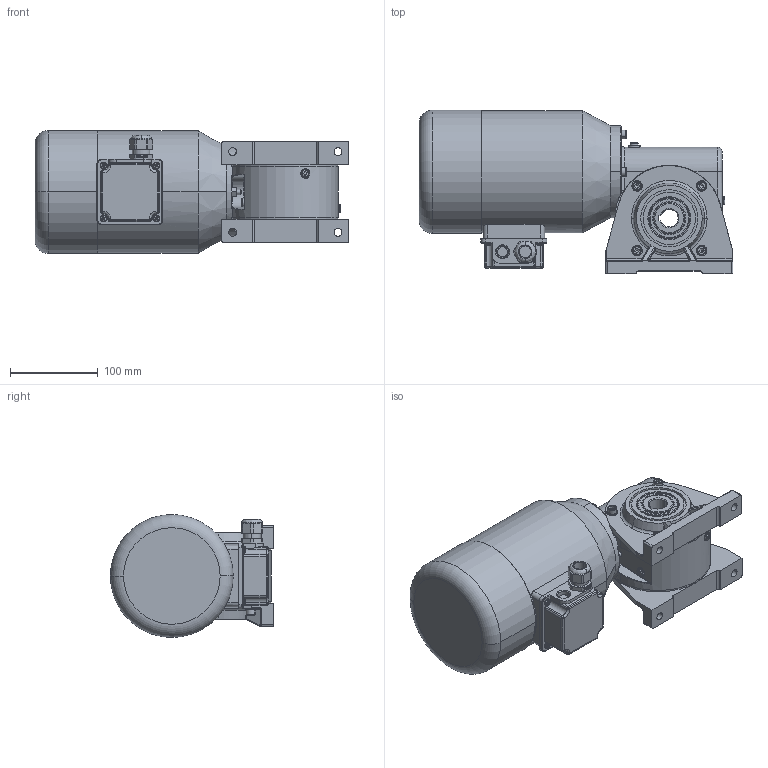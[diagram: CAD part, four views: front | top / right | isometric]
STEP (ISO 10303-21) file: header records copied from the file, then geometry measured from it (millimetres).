
FILE_DESCRIPTION (( 'STEP AP214' ), '1' );
FILE_NAME ('SN8BFH_250W_1400Upm_Drehstrom-Motor_B.STEP', '2021-07-23T09:06:00', ( '' ), ( '' ), 'SwSTEP 2.0', 'SolidWorks 2019', '' );
FILE_SCHEMA (( 'AUTOMOTIVE_DESIGN' ));
Length unit declared in the file: millimetre
Products named in the file (13): Kupferscheibe Ø6x12x1,5 DIN7603 A; SN8SHH_3D_Export; 08-M-165 I 250W_1400Upm; hex nut style 1 gradeab_din_Hexagon Nut ISO 4032 - M6 - D - C; 08FH-W-001_3D_Export; SN8BFH_250W_1400Upm_Drehstrom-Motor_B; NBR_WDR_35x47x7; slotted pan head screw_din_DIN EN ISO 1580 - M5 x 6 - 6C; socket head cap screw_din_DIN 912 M6 x 20 --- 20C; socket set screw flat point_din_DIN 913 - M6 x 25-C; U-Seal Ring Ø5; 08SHH-D-001_3D_Export; 08B-G-003_3D_Export
Assembly tree (37 placements, depth 3):
  SN8BFH_250W_1400Upm_Drehstrom-Motor_B
    SN8SHH_3D_Export
      08B-G-003_3D_Export
      08FH-W-001_3D_Export
      08SHH-D-001_3D_Export  x2
      NBR_WDR_35x47x7  x2
      socket head cap screw_din_DIN 912 M6 x 20 --- 20C  x11
      slotted pan head screw_din_DIN EN ISO 1580 - M5 x 6 - 6C  x4
      socket set screw flat point_din_DIN 913 - M6 x 25-C
      hex nut style 1 gradeab_din_Hexagon Nut ISO 4032 - M6 - D - C
      Kupferscheibe Ø6x12x1,5 DIN7603 A  x8
      U-Seal Ring Ø5  x4
    08-M-165 I 250W_1400Upm
Bounding box: 357.5 x 186 x 140 mm (x, y, z)
Volume: 4584033.6 mm3; surface area: 367539.4 mm2
Topology: 38 solids, 38 shells, 1453 faces, 3495 edges, 2158 vertices
Faces by surface type: plane 479, cylinder 465, torus 200, cone 191, bspline 94, sphere 24
Entity records: 32691 total; most frequent: CARTESIAN_POINT 9444, DIRECTION 4862, ORIENTED_EDGE 4680, EDGE_CURVE 2340, AXIS2_PLACEMENT_3D 1986, VERTEX_POINT 1483, CIRCLE 1080, EDGE_LOOP 1035
